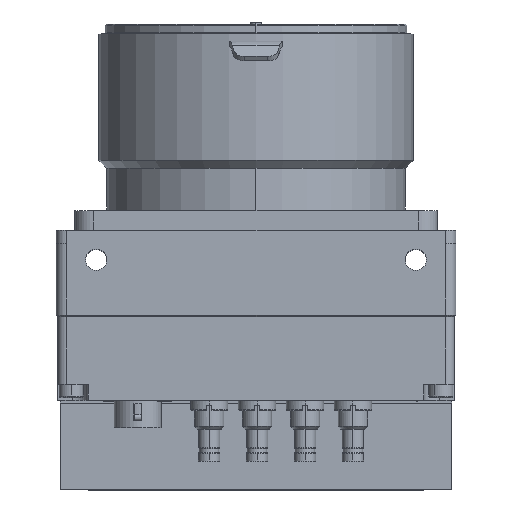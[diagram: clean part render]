
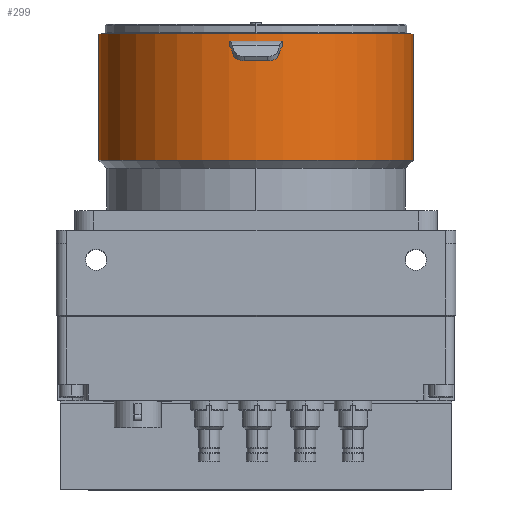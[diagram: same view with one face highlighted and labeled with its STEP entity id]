
A CAD part, top view. The second image highlights one B-rep face of the part: STEP entity #299.
In plain terms, the highlighted cylindrical face has radius 29.5 mm (diameter 59 mm), a partial arc.
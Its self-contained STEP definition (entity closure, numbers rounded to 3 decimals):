
#299 = ADVANCED_FACE ( 'NONE', ( #4317 ), #11339, .T. ) ;
#378 = CARTESIAN_POINT ( 'NONE',  ( -39.5, 66.93, 0. ) ) ;
#881 = EDGE_LOOP ( 'NONE', ( #18706, #8579, #19113, #3180 ) ) ;
#1381 = VECTOR ( 'NONE', #1949, 1000. ) ;
#1831 = VERTEX_POINT ( 'NONE', #4181 ) ;
#1949 = DIRECTION ( 'NONE',  ( 0., -1., 0. ) ) ;
#3180 = ORIENTED_EDGE ( 'NONE', *, *, #22966, .T. ) ;
#3484 = DIRECTION ( 'NONE',  ( 1., 0., 0. ) ) ;
#4181 = CARTESIAN_POINT ( 'NONE',  ( -39.5, 44.61, 0. ) ) ;
#4317 = FACE_OUTER_BOUND ( 'NONE', #881, .T. ) ;
#4742 = DIRECTION ( 'NONE',  ( 0., -1., 0. ) ) ;
#6628 = CIRCLE ( 'NONE', #8316, 29.5 ) ;
#6677 = EDGE_CURVE ( 'NONE', #15372, #14371, #19612, .T. ) ;
#8316 = AXIS2_PLACEMENT_3D ( 'NONE', #12768, #11871, #3484 ) ;
#8579 = ORIENTED_EDGE ( 'NONE', *, *, #19178, .F. ) ;
#8743 = DIRECTION ( 'NONE',  ( -1., 0., 0. ) ) ;
#9665 = DIRECTION ( 'NONE',  ( 0., -1., 0. ) ) ;
#11339 = CYLINDRICAL_SURFACE ( 'NONE', #20908, 29.5 ) ;
#11871 = DIRECTION ( 'NONE',  ( 0., 1., 0. ) ) ;
#12768 = CARTESIAN_POINT ( 'NONE',  ( -10., 68.32, 0. ) ) ;
#13437 = CARTESIAN_POINT ( 'NONE',  ( 19.5, 68.32, 0. ) ) ;
#13733 = CARTESIAN_POINT ( 'NONE',  ( -10., 44.61, 0. ) ) ;
#14371 = VERTEX_POINT ( 'NONE', #16831 ) ;
#14602 = CIRCLE ( 'NONE', #15817, 29.5 ) ;
#15249 = CARTESIAN_POINT ( 'NONE',  ( 19.5, 66.93, 0. ) ) ;
#15372 = VERTEX_POINT ( 'NONE', #13437 ) ;
#15817 = AXIS2_PLACEMENT_3D ( 'NONE', #13733, #17280, #20751 ) ;
#16667 = CARTESIAN_POINT ( 'NONE',  ( -10., 66.93, 0. ) ) ;
#16831 = CARTESIAN_POINT ( 'NONE',  ( 19.5, 44.61, 0. ) ) ;
#17280 = DIRECTION ( 'NONE',  ( 0., 1., 0. ) ) ;
#18450 = LINE ( 'NONE', #378, #26026 ) ;
#18670 = EDGE_CURVE ( 'NONE', #26158, #1831, #18450, .T. ) ;
#18706 = ORIENTED_EDGE ( 'NONE', *, *, #6677, .F. ) ;
#19113 = ORIENTED_EDGE ( 'NONE', *, *, #18670, .T. ) ;
#19178 = EDGE_CURVE ( 'NONE', #26158, #15372, #6628, .T. ) ;
#19612 = LINE ( 'NONE', #15249, #1381 ) ;
#20120 = CARTESIAN_POINT ( 'NONE',  ( -39.5, 68.32, 0. ) ) ;
#20751 = DIRECTION ( 'NONE',  ( 1., 0., 0. ) ) ;
#20908 = AXIS2_PLACEMENT_3D ( 'NONE', #16667, #4742, #8743 ) ;
#22966 = EDGE_CURVE ( 'NONE', #1831, #14371, #14602, .T. ) ;
#26026 = VECTOR ( 'NONE', #9665, 1000. ) ;
#26158 = VERTEX_POINT ( 'NONE', #20120 ) ;
